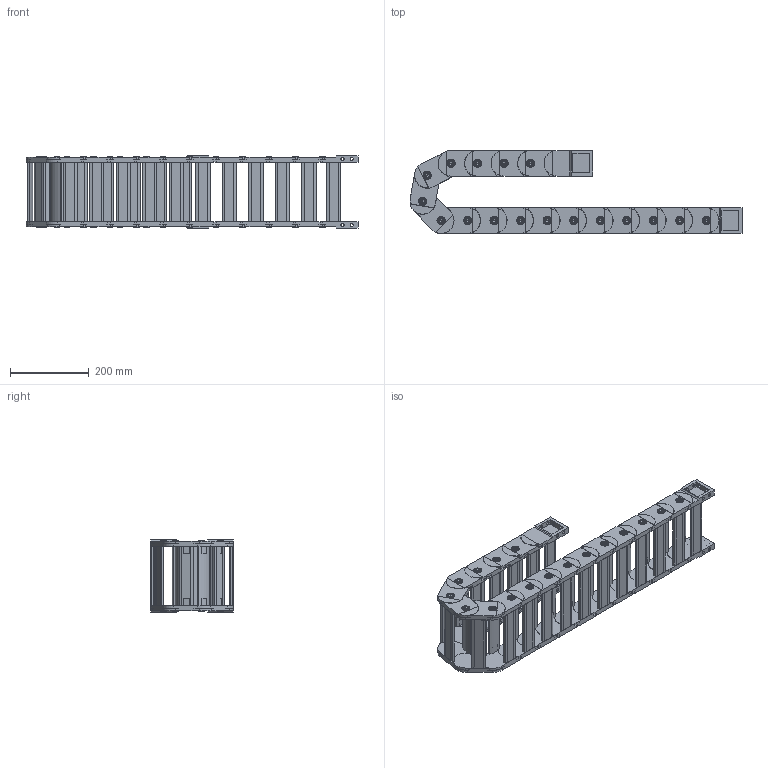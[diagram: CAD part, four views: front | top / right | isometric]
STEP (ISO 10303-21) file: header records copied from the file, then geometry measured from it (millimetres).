
FILE_DESCRIPTION((''),'2;1');
FILE_NAME('HD-45-LK-R75_ASM','2023-04-13T18:12:17',('admin'),(''),'CREO PARAMETRIC BY PTC INC, 2021164','CREO PARAMETRIC BY PTC INC, 2021164','');
FILE_SCHEMA(('CONFIG_CONTROL_DESIGN','GEOMETRIC_VALIDATION_PROPERTIES_MIM'));
Length unit declared in the file: millimetre
Products named in the file (6): HD-45-LK; 45-750001; HD-45-LK_ASM; H45-T2-G; H45-T1-G; HD-45-LK-R75_ASM
Assembly tree (23 placements, depth 3):
  HD-45-LK-R75_ASM
    HD-45-LK_ASM  x17
      HD-45-LK
      45-750001
    H45-T2-G
    H45-T1-G
    45-750001  x2
Bounding box: 845.15 x 210.68 x 183.3 mm (x, y, z)
Volume: 3969622.1 mm3; surface area: 1310938.5 mm2
Topology: 76 solids, 76 shells, 1826 faces, 4654 edges, 3094 vertices
Faces by surface type: plane 1112, cylinder 306, torus 204, cone 136, sphere 68
Entity records: 11252 total; most frequent: DIRECTION 1480, CARTESIAN_POINT 1464, ORIENTED_EDGE 1348, PRESENTATION_STYLE_ASSIGNMENT 704, STYLED_ITEM 688, CURVE_STYLE 674, EDGE_CURVE 674, AXIS2_PLACEMENT_3D 525
